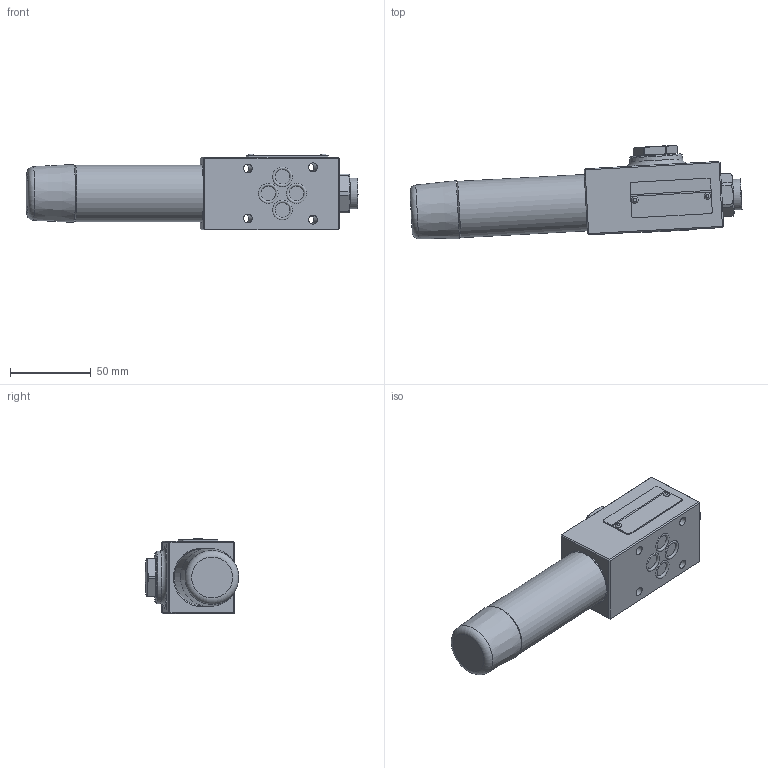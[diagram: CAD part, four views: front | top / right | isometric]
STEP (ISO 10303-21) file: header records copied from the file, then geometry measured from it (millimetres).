
FILE_DESCRIPTION(/* description */ (''),/* implementation_level */ '2;1');
FILE_NAME(/* name */ 'DR6DP-5XJ-Y（DZ6DP-5XJ-Y）减压阀（顺序阀）.prt.stp',/* time_stamp */ '2022-03-30T20:17:56+08:00',/* author */ (''),/* organization */ (''),/* preprocessor_version */ 'ST-DEVELOPER v16.7',/* originating_system */ 'SIEMENS PLM Software NX 12.0',/* authorisation */ '');
FILE_SCHEMA (('AUTOMOTIVE_DESIGN { 1 0 10303 214 3 1 1 1 }'));
Length unit declared in the file: millimetre
Products named in the file (1): DR6DP-5XJ-Y（DZ6DP-5XJ-Y）减压阀（顺序阀）
Bounding box: 205.89 x 57.82 x 46.8 mm (x, y, z)
Volume: 206822.4 mm3; surface area: 62715.5 mm2
Topology: 17 solids, 20 shells, 284 faces, 626 edges, 393 vertices
Faces by surface type: plane 116, cylinder 80, cone 44, bspline 19, torus 18, sphere 5, extrusion 2
Full cylindrical faces by diameter (mm): 1.8 x2, 1.9 x2, 2.5 x2, 5.5 x4, 6 x1, 9.4 x4, 12.2 x4, 12.3 x2, 14.5 x1, 14.73 x1, 15.9 x1, 16 x2, 17.43 x1, 18.5 x1, 19 x1, 22 x1, 22.5 x1, 26.5 x1, 28 x1, 28.5 x2, 31.6 x1, 31.9 x1, 34.5 x1, 35 x1, 36.5 x1
Entity records: 21817 total; most frequent: CARTESIAN_POINT 15903, DIRECTION 1075, ORIENTED_EDGE 1010, EDGE_CURVE 505, AXIS2_PLACEMENT_3D 454, EDGE_LOOP 400, VERTEX_POINT 369, ADVANCED_FACE 283
